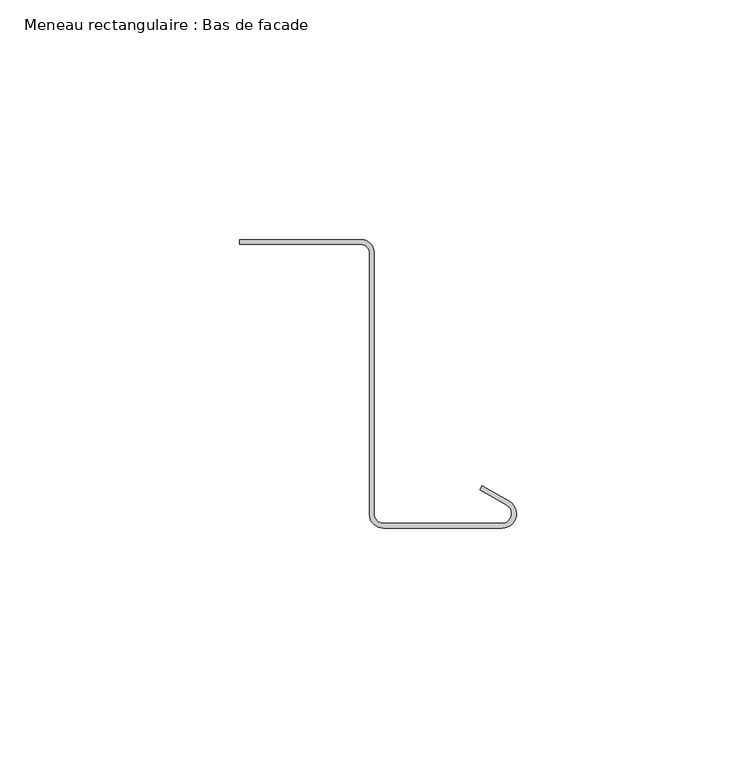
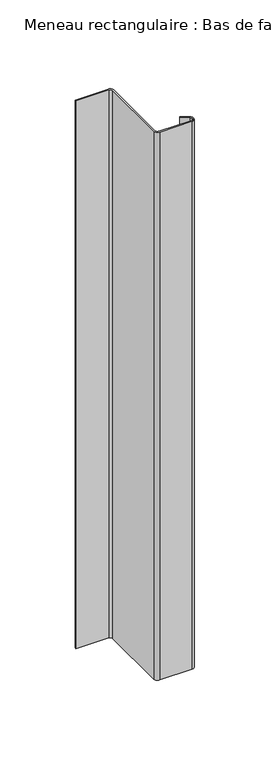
"""IFC4 building model written with IfcOpenShell, lengths in millimetres: member geometry, Meneau rectangulaire : Bas de facade."""

from ifc_helpers import new_model, si_unit, point, frame, frame_2d, origin, place, context, project, spatial, polyline, circle_curve, trimmed, segment, composite_curve, outline, extrude, source, transform, mapped, element, save


def meneau_rectangulaire_bas_de_facade_b4e37a96(model_context):
    return source(origin(), model_context, "Body", "SweptSolid", [
        extrude(outline(composite_curve([segment(trimmed(circle_curve(frame_2d((-32.4584179, 0.2088923)), 2.75), [point((-32.4584179, 2.9588923))], [point((-29.7143802, 0.3898824))], False, "CARTESIAN"), True, "CONTINUOUS"), segment(polyline([(-29.7143802, 0.3898824), (-29.7143802, -54.5495817)]), True, "CONTINUOUS"), segment(trimmed(circle_curve(frame_2d((-27.735368, -54.2605998)), 2.0), [point((-29.7143802, -54.5495817))], [point((-27.735368, -56.2605998))], True, "CARTESIAN"), True, "CONTINUOUS"), segment(polyline([(-27.735368, -56.2605998), (-3.0, -56.2605998)]), True, "CONTINUOUS"), segment(trimmed(circle_curve(frame_2d((-3.0, -54.2605998)), 2.0), [point((-3.0, -56.2605998))], [point((-2.0, -52.528549))], True, "CARTESIAN"), True, "CONTINUOUS"), segment(polyline([(-2.0, -52.528549), (-7.6638061, -49.258549), (-7.1638061, -48.3925235), (-1.5, -51.6625235)]), True, "CONTINUOUS"), segment(trimmed(circle_curve(frame_2d((-3.0, -54.2605998)), 3.0), [point((-1.5, -51.6625235))], [point((-3.0, -57.2605998))], False, "CARTESIAN"), True, "CONTINUOUS"), segment(polyline([(-3.0, -57.2605998), (-27.735368, -57.2605998)]), True, "CONTINUOUS"), segment(trimmed(circle_curve(frame_2d((-27.735368, -54.2605998)), 3.0), [point((-27.735368, -57.2605998))], [point((-30.7239521, -54.522067))], False, "CARTESIAN"), True, "CONTINUOUS"), segment(polyline([(-30.7239521, -54.522067), (-30.7239521, 0.4415475)]), True, "CONTINUOUS"), segment(trimmed(circle_curve(frame_2d((-32.4584179, 0.2088923)), 1.75), [point((-30.7239521, 0.4415475))], [point((-32.4584179, 1.9588923))], True, "CARTESIAN"), True, "CONTINUOUS"), segment(polyline([(-32.4584179, 1.9588923), (-57.8548383, 1.9588923), (-57.8548383, 2.9588923), (-32.4584179, 2.9588923)]), True, "CONTINUOUS")], self_intersect=False)), frame((0.0, 0.0, -445.0), z_axis=(0.0, 0.0, 1.0), x_axis=(1.0, 0.0, 0.0)), (0.0, 0.0, 1.0), 445.0),
    ])


if __name__ == "__main__":
    model = new_model("IFC4")
    model_context = context("Model", 3, world=origin())
    ifc_project = project(units=[si_unit("LENGTHUNIT", "METRE", prefix="MILLI")], contexts=[model_context])
    site = spatial("IfcSite", under=ifc_project)
    building = spatial("IfcBuilding", under=site)
    placement = place(None, origin())
    meneau_rectangulaire_bas_de_facade_shape = meneau_rectangulaire_bas_de_facade_b4e37a96(model_context)
    element("IfcMember", 1, ObjectType="Meneau rectangulaire : Bas de facade", at=placement, inside=building, context=model_context, shape_type="MappedRepresentation", body=[
        mapped(meneau_rectangulaire_bas_de_facade_shape, transform((0.0, 0.0, 0.0), x_axis=(1.0, 0.0, 0.0), y_axis=(0.0, 1.0, 0.0), z_axis=(0.0, 0.0, 1.0))),
    ])
    save(model, "model.ifc")
